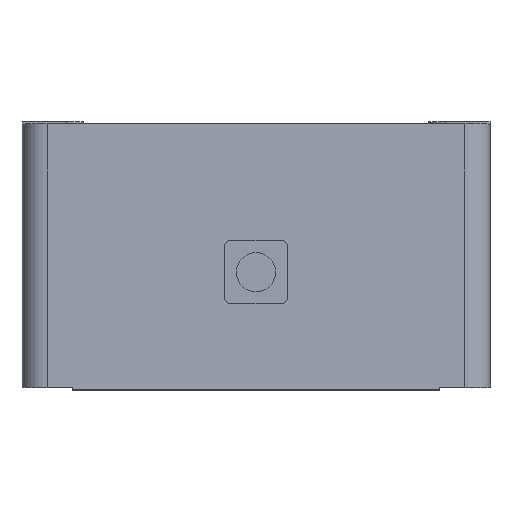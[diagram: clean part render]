
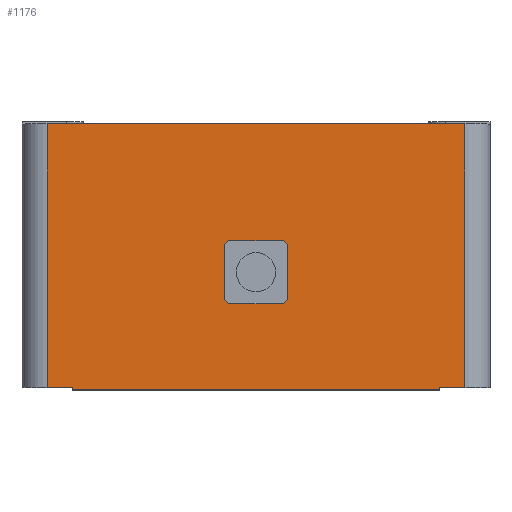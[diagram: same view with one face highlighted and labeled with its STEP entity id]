
A CAD part, top view. The second image highlights one B-rep face of the part: STEP entity #1176.
In plain terms, the highlighted planar face has unit normal (0, 0, 1).
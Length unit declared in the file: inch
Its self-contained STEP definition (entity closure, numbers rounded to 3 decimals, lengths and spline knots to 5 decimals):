
#55 = VECTOR ( 'NONE', #3674, 39.37008 ) ;
#88 = DIRECTION ( 'NONE',  ( 1., 0., 0. ) ) ;
#181 = VECTOR ( 'NONE', #3154, 39.37008 ) ;
#201 = LINE ( 'NONE', #3359, #905 ) ;
#224 = CARTESIAN_POINT ( 'NONE',  ( 3.125, -1.96796, 3.5 ) ) ;
#291 = VECTOR ( 'NONE', #3888, 39.37008 ) ;
#323 = VERTEX_POINT ( 'NONE', #1174 ) ;
#333 = VECTOR ( 'NONE', #2106, 39.37008 ) ;
#352 = VERTEX_POINT ( 'NONE', #1125 ) ;
#355 = EDGE_LOOP ( 'NONE', ( #1736, #2577, #562, #846, #1248, #3311, #1567, #1990 ) ) ;
#386 = CARTESIAN_POINT ( 'NONE',  ( 3.125, 2.00002, 3.5 ) ) ;
#428 = EDGE_CURVE ( 'NONE', #2264, #2516, #1573, .T. ) ;
#518 = CARTESIAN_POINT ( 'NONE',  ( -3.125, 1.96802, 3.5 ) ) ;
#525 = VERTEX_POINT ( 'NONE', #2110 ) ;
#549 = DIRECTION ( 'NONE',  ( -1., 0., 0. ) ) ;
#553 = VECTOR ( 'NONE', #1503, 39.37008 ) ;
#562 = ORIENTED_EDGE ( 'NONE', *, *, #2618, .T. ) ;
#573 = LINE ( 'NONE', #766, #3588 ) ;
#590 = EDGE_CURVE ( 'NONE', #1362, #525, #843, .T. ) ;
#629 = VERTEX_POINT ( 'NONE', #1598 ) ;
#692 = CARTESIAN_POINT ( 'NONE',  ( 3.125, -1.96796, 3.5 ) ) ;
#717 = DIRECTION ( 'NONE',  ( 1., 0., 0. ) ) ;
#748 = VECTOR ( 'NONE', #2729, 39.37008 ) ;
#766 = CARTESIAN_POINT ( 'NONE',  ( 3.125, 0.22, 3.5 ) ) ;
#843 = LINE ( 'NONE', #3051, #55 ) ;
#846 = ORIENTED_EDGE ( 'NONE', *, *, #3532, .F. ) ;
#879 = FACE_OUTER_BOUND ( 'NONE', #355, .T. ) ;
#905 = VECTOR ( 'NONE', #945, 39.37008 ) ;
#928 = ORIENTED_EDGE ( 'NONE', *, *, #3770, .T. ) ;
#931 = CARTESIAN_POINT ( 'NONE',  ( -0.47, 2.00002, 3.5 ) ) ;
#933 = EDGE_CURVE ( 'NONE', #3630, #2989, #3107, .T. ) ;
#945 = DIRECTION ( 'NONE',  ( -0.707, -0.707, 0. ) ) ;
#957 = VECTOR ( 'NONE', #1790, 39.37008 ) ;
#963 = CARTESIAN_POINT ( 'NONE',  ( -3.125, -1.96796, 3.5 ) ) ;
#997 = VECTOR ( 'NONE', #1180, 39.37008 ) ;
#1087 = VECTOR ( 'NONE', #1583, 39.37008 ) ;
#1091 = CARTESIAN_POINT ( 'NONE',  ( 0.47, 2.00002, 3.5 ) ) ;
#1125 = CARTESIAN_POINT ( 'NONE',  ( -2.75, -1.96796, 3.5 ) ) ;
#1174 = CARTESIAN_POINT ( 'NONE',  ( -0.41, 0.22, 3.5 ) ) ;
#1176 = ADVANCED_FACE ( 'NONE', ( #879, #3470 ), #3102, .T. ) ;
#1180 = DIRECTION ( 'NONE',  ( 0., 1., 0. ) ) ;
#1198 = LINE ( 'NONE', #3388, #2715 ) ;
#1248 = ORIENTED_EDGE ( 'NONE', *, *, #1980, .F. ) ;
#1288 = CARTESIAN_POINT ( 'NONE',  ( 0.47, 0.16, 3.5 ) ) ;
#1304 = VERTEX_POINT ( 'NONE', #2594 ) ;
#1341 = LINE ( 'NONE', #931, #997 ) ;
#1342 = CARTESIAN_POINT ( 'NONE',  ( 0.41, 0.22, 3.5 ) ) ;
#1362 = VERTEX_POINT ( 'NONE', #1689 ) ;
#1399 = VERTEX_POINT ( 'NONE', #3483 ) ;
#1428 = VECTOR ( 'NONE', #2421, 39.37008 ) ;
#1429 = EDGE_CURVE ( 'NONE', #1304, #3057, #3622, .T. ) ;
#1437 = AXIS2_PLACEMENT_3D ( 'NONE', #386, #2533, #717 ) ;
#1474 = CARTESIAN_POINT ( 'NONE',  ( 2.75, -1.96796, 3.5 ) ) ;
#1492 = CARTESIAN_POINT ( 'NONE',  ( 0.41, -0.72, 3.5 ) ) ;
#1503 = DIRECTION ( 'NONE',  ( 0., -1., 0. ) ) ;
#1567 = ORIENTED_EDGE ( 'NONE', *, *, #3862, .T. ) ;
#1573 = LINE ( 'NONE', #2944, #748 ) ;
#1583 = DIRECTION ( 'NONE',  ( 1., 0., 0. ) ) ;
#1598 = CARTESIAN_POINT ( 'NONE',  ( 3.125, 1.96802, 3.5 ) ) ;
#1618 = VECTOR ( 'NONE', #549, 39.37008 ) ;
#1644 = EDGE_CURVE ( 'NONE', #2250, #323, #1978, .T. ) ;
#1686 = EDGE_CURVE ( 'NONE', #352, #3630, #3088, .T. ) ;
#1689 = CARTESIAN_POINT ( 'NONE',  ( -0.41, -0.72, 3.5 ) ) ;
#1727 = VERTEX_POINT ( 'NONE', #3819 ) ;
#1736 = ORIENTED_EDGE ( 'NONE', *, *, #933, .T. ) ;
#1783 = LINE ( 'NONE', #1474, #957 ) ;
#1790 = DIRECTION ( 'NONE',  ( 0., 1., 0. ) ) ;
#1840 = CARTESIAN_POINT ( 'NONE',  ( 3.125, 1.96802, 3.5 ) ) ;
#1887 = CARTESIAN_POINT ( 'NONE',  ( -2.75, -1.99996, 3.5 ) ) ;
#1921 = DIRECTION ( 'NONE',  ( 0., -1., 0. ) ) ;
#1962 = CARTESIAN_POINT ( 'NONE',  ( 2.75, -1.96796, 3.5 ) ) ;
#1978 = LINE ( 'NONE', #2133, #2395 ) ;
#1980 = EDGE_CURVE ( 'NONE', #2264, #629, #3691, .T. ) ;
#1990 = ORIENTED_EDGE ( 'NONE', *, *, #1686, .T. ) ;
#1997 = LINE ( 'NONE', #224, #1428 ) ;
#2076 = CARTESIAN_POINT ( 'NONE',  ( 3.125, -1.99996, 3.5 ) ) ;
#2106 = DIRECTION ( 'NONE',  ( 1., 0., 0. ) ) ;
#2110 = CARTESIAN_POINT ( 'NONE',  ( -0.47, -0.66, 3.5 ) ) ;
#2133 = CARTESIAN_POINT ( 'NONE',  ( -0.47, 0.16, 3.5 ) ) ;
#2250 = VERTEX_POINT ( 'NONE', #3224 ) ;
#2264 = VERTEX_POINT ( 'NONE', #518 ) ;
#2324 = EDGE_CURVE ( 'NONE', #2895, #1362, #3294, .T. ) ;
#2358 = ORIENTED_EDGE ( 'NONE', *, *, #2955, .T. ) ;
#2395 = VECTOR ( 'NONE', #2416, 39.37008 ) ;
#2416 = DIRECTION ( 'NONE',  ( 0.707, 0.707, 0. ) ) ;
#2421 = DIRECTION ( 'NONE',  ( 1., 0., 0. ) ) ;
#2516 = VERTEX_POINT ( 'NONE', #963 ) ;
#2533 = DIRECTION ( 'NONE',  ( 0., 0., 1. ) ) ;
#2577 = ORIENTED_EDGE ( 'NONE', *, *, #2863, .T. ) ;
#2594 = CARTESIAN_POINT ( 'NONE',  ( 0.41, 0.22, 3.5 ) ) ;
#2618 = EDGE_CURVE ( 'NONE', #3842, #1727, #3168, .T. ) ;
#2655 = ORIENTED_EDGE ( 'NONE', *, *, #3822, .T. ) ;
#2715 = VECTOR ( 'NONE', #1921, 39.37008 ) ;
#2729 = DIRECTION ( 'NONE',  ( 0., -1., 0. ) ) ;
#2772 = CARTESIAN_POINT ( 'NONE',  ( 2.75, -1.99996, 3.5 ) ) ;
#2861 = ORIENTED_EDGE ( 'NONE', *, *, #590, .T. ) ;
#2863 = EDGE_CURVE ( 'NONE', #2989, #3842, #1783, .T. ) ;
#2895 = VERTEX_POINT ( 'NONE', #1492 ) ;
#2944 = CARTESIAN_POINT ( 'NONE',  ( -3.125, 2.00002, 3.5 ) ) ;
#2955 = EDGE_CURVE ( 'NONE', #525, #2250, #1341, .T. ) ;
#2989 = VERTEX_POINT ( 'NONE', #2772 ) ;
#3025 = EDGE_CURVE ( 'NONE', #1399, #2895, #201, .T. ) ;
#3051 = CARTESIAN_POINT ( 'NONE',  ( -0.41, -0.72, 3.5 ) ) ;
#3057 = VERTEX_POINT ( 'NONE', #1288 ) ;
#3088 = LINE ( 'NONE', #3324, #553 ) ;
#3102 = PLANE ( 'NONE',  #1437 ) ;
#3107 = LINE ( 'NONE', #2076, #333 ) ;
#3127 = ORIENTED_EDGE ( 'NONE', *, *, #2324, .T. ) ;
#3154 = DIRECTION ( 'NONE',  ( 0.707, -0.707, 0. ) ) ;
#3168 = LINE ( 'NONE', #692, #3498 ) ;
#3224 = CARTESIAN_POINT ( 'NONE',  ( -0.47, 0.16, 3.5 ) ) ;
#3294 = LINE ( 'NONE', #3843, #1618 ) ;
#3311 = ORIENTED_EDGE ( 'NONE', *, *, #428, .T. ) ;
#3324 = CARTESIAN_POINT ( 'NONE',  ( -2.75, -1.96796, 3.5 ) ) ;
#3342 = ORIENTED_EDGE ( 'NONE', *, *, #1429, .T. ) ;
#3359 = CARTESIAN_POINT ( 'NONE',  ( 0.47, -0.66, 3.5 ) ) ;
#3388 = CARTESIAN_POINT ( 'NONE',  ( 3.125, 2.00002, 3.5 ) ) ;
#3470 = FACE_BOUND ( 'NONE', #3850, .T. ) ;
#3483 = CARTESIAN_POINT ( 'NONE',  ( 0.47, -0.66, 3.5 ) ) ;
#3484 = LINE ( 'NONE', #1091, #291 ) ;
#3498 = VECTOR ( 'NONE', #88, 39.37008 ) ;
#3532 = EDGE_CURVE ( 'NONE', #629, #1727, #1198, .T. ) ;
#3588 = VECTOR ( 'NONE', #3795, 39.37008 ) ;
#3603 = ORIENTED_EDGE ( 'NONE', *, *, #1644, .T. ) ;
#3622 = LINE ( 'NONE', #1342, #181 ) ;
#3630 = VERTEX_POINT ( 'NONE', #1887 ) ;
#3674 = DIRECTION ( 'NONE',  ( -0.707, 0.707, 0. ) ) ;
#3690 = ORIENTED_EDGE ( 'NONE', *, *, #3025, .T. ) ;
#3691 = LINE ( 'NONE', #1840, #1087 ) ;
#3770 = EDGE_CURVE ( 'NONE', #3057, #1399, #3484, .T. ) ;
#3795 = DIRECTION ( 'NONE',  ( 1., 0., 0. ) ) ;
#3819 = CARTESIAN_POINT ( 'NONE',  ( 3.125, -1.96796, 3.5 ) ) ;
#3822 = EDGE_CURVE ( 'NONE', #323, #1304, #573, .T. ) ;
#3842 = VERTEX_POINT ( 'NONE', #1962 ) ;
#3843 = CARTESIAN_POINT ( 'NONE',  ( 3.125, -0.72, 3.5 ) ) ;
#3850 = EDGE_LOOP ( 'NONE', ( #2861, #2358, #3603, #2655, #3342, #928, #3690, #3127 ) ) ;
#3862 = EDGE_CURVE ( 'NONE', #2516, #352, #1997, .T. ) ;
#3888 = DIRECTION ( 'NONE',  ( 0., -1., 0. ) ) ;
